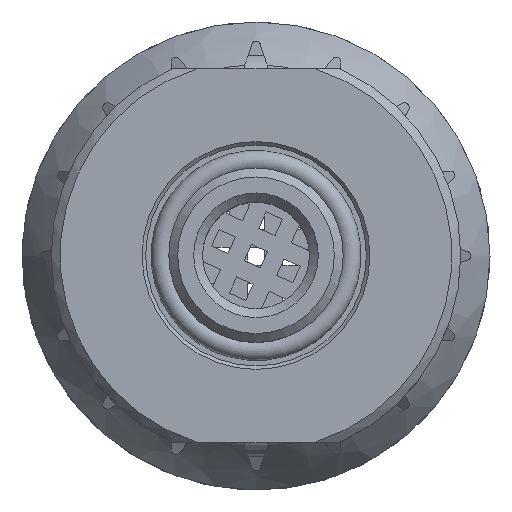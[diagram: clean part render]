
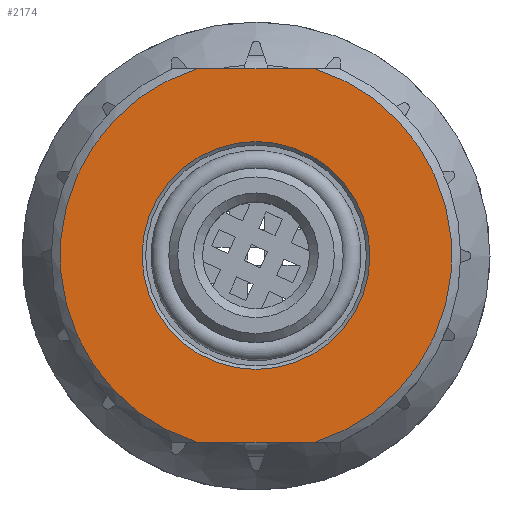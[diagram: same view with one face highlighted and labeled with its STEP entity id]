
A CAD part, top view. The second image highlights one B-rep face of the part: STEP entity #2174.
In plain terms, the highlighted planar face has unit normal (0, 0, 1).
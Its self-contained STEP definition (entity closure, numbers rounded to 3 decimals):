
#2174 = ADVANCED_FACE( '', ( #4514, #4515 ), #4516, .F. );
#4514 = FACE_BOUND( '', #8514, .T. );
#4515 = FACE_OUTER_BOUND( '', #8515, .T. );
#4516 = PLANE( '', #8516 );
#8514 = EDGE_LOOP( '', ( #14845 ) );
#8515 = EDGE_LOOP( '', ( #14846, #14847, #14848, #14849 ) );
#8516 = AXIS2_PLACEMENT_3D( '', #14850, #14851, #14852 );
#14845 = ORIENTED_EDGE( '', *, *, #17839, .T. );
#14846 = ORIENTED_EDGE( '', *, *, #18017, .F. );
#14847 = ORIENTED_EDGE( '', *, *, #17837, .F. );
#14848 = ORIENTED_EDGE( '', *, *, #17914, .T. );
#14849 = ORIENTED_EDGE( '', *, *, #16922, .F. );
#14850 = CARTESIAN_POINT( '', ( -6.4, 0., 3.683 ) );
#14851 = DIRECTION( '', ( 0., 0., -1. ) );
#14852 = DIRECTION( '', ( -1., 0., 0. ) );
#16922 = EDGE_CURVE( '', #20462, #20465, #20466, .T. );
#17837 = EDGE_CURVE( '', #21640, #21638, #21642, .T. );
#17839 = EDGE_CURVE( '', #21644, #21644, #21645, .T. );
#17914 = EDGE_CURVE( '', #21640, #20465, #21732, .T. );
#18017 = EDGE_CURVE( '', #21638, #20462, #21837, .T. );
#20462 = VERTEX_POINT( '', #29102 );
#20465 = VERTEX_POINT( '', #29108 );
#20466 = CIRCLE( '', #29109, 11. );
#21638 = VERTEX_POINT( '', #32777 );
#21640 = VERTEX_POINT( '', #32782 );
#21642 = CIRCLE( '', #32787, 11. );
#21644 = VERTEX_POINT( '', #32789 );
#21645 = CIRCLE( '', #32790, 6.4 );
#21732 = LINE( '', #33016, #33017 );
#21837 = LINE( '', #33290, #33291 );
#29102 = CARTESIAN_POINT( '', ( -3.279, -10.5, 3.683 ) );
#29108 = CARTESIAN_POINT( '', ( -3.279, 10.5, 3.683 ) );
#29109 = AXIS2_PLACEMENT_3D( '', #34836, #34837, #34838 );
#32777 = CARTESIAN_POINT( '', ( 3.279, -10.5, 3.683 ) );
#32782 = CARTESIAN_POINT( '', ( 3.279, 10.5, 3.683 ) );
#32787 = AXIS2_PLACEMENT_3D( '', #35523, #35524, #35525 );
#32789 = CARTESIAN_POINT( '', ( -6.4, 0., 3.683 ) );
#32790 = AXIS2_PLACEMENT_3D( '', #35526, #35527, #35528 );
#33016 = CARTESIAN_POINT( '', ( -6.4, 10.5, 3.683 ) );
#33017 = VECTOR( '', #35583, 1000. );
#33290 = CARTESIAN_POINT( '', ( -6.4, -10.5, 3.683 ) );
#33291 = VECTOR( '', #35630, 1000. );
#34836 = CARTESIAN_POINT( '', ( 0., 0., 3.683 ) );
#34837 = DIRECTION( '', ( 0., 0., -1. ) );
#34838 = DIRECTION( '', ( -1., 0., 0. ) );
#35523 = CARTESIAN_POINT( '', ( 0., 0., 3.683 ) );
#35524 = DIRECTION( '', ( 0., 0., -1. ) );
#35525 = DIRECTION( '', ( -1., 0., 0. ) );
#35526 = CARTESIAN_POINT( '', ( 0., 0., 3.683 ) );
#35527 = DIRECTION( '', ( 0., 0., -1. ) );
#35528 = DIRECTION( '', ( -1., 0., 0. ) );
#35583 = DIRECTION( '', ( -1., 0., 0. ) );
#35630 = DIRECTION( '', ( -1., 0., 0. ) );
